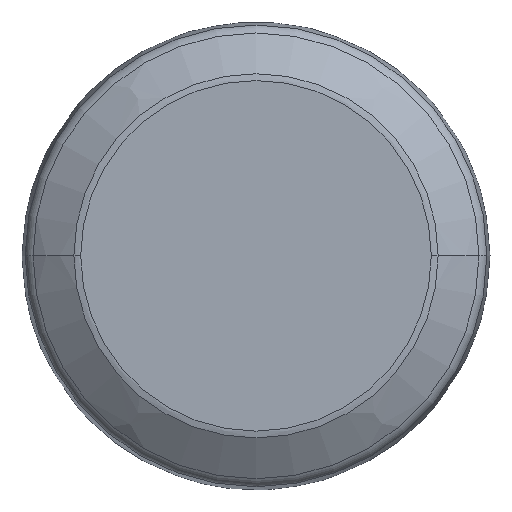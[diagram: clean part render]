
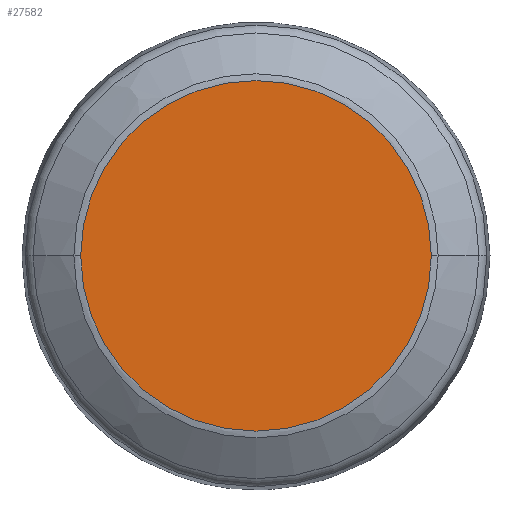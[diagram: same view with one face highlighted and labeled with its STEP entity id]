
A CAD part, top view. The second image highlights one B-rep face of the part: STEP entity #27582.
In plain terms, the highlighted planar face has unit normal (0, 0, 1).
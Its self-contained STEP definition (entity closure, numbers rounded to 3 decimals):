
#27373=CARTESIAN_POINT('',(0.,0.,
39.201));
#27374=DIRECTION('',(0.,0.,1.));
#27375=DIRECTION('',(-1.,0.,0.));
#27376=AXIS2_PLACEMENT_3D('',#27373,#27374,#27375);
#27378=CARTESIAN_POINT('',(0.,0.,
39.201));
#27379=DIRECTION('',(0.,0.,1.));
#27380=DIRECTION('',(1.,0.,0.));
#27381=AXIS2_PLACEMENT_3D('',#27378,#27379,#27380);
#27386=CARTESIAN_POINT('',(10.27,0.,
39.201));
#27388=CARTESIAN_POINT('',(-10.27,0.,
39.201));
#27540=VERTEX_POINT('',#27386);
#27541=VERTEX_POINT('',#27388);
#27571=CARTESIAN_POINT('',(0.,0.,
39.201));
#27572=DIRECTION('',(0.,0.,1.));
#27573=DIRECTION('',(1.,0.,0.));
#27574=AXIS2_PLACEMENT_3D('',#27571,#27572,#27573);
#27575=PLANE('',#27574);
#27577=ORIENTED_EDGE('',*,*,#27576,.F.);
#27579=ORIENTED_EDGE('',*,*,#27578,.F.);
#27580=EDGE_LOOP('',(#27577,#27579));
#27581=FACE_OUTER_BOUND('',#27580,.F.);
#27582=ADVANCED_FACE('',(#27581),#27575,.T.);
#27377=CIRCLE('',#27376,10.27);
#27382=CIRCLE('',#27381,10.27);
#27576=EDGE_CURVE('',#27541,#27540,#27377,.T.);
#27578=EDGE_CURVE('',#27540,#27541,#27382,.T.);
